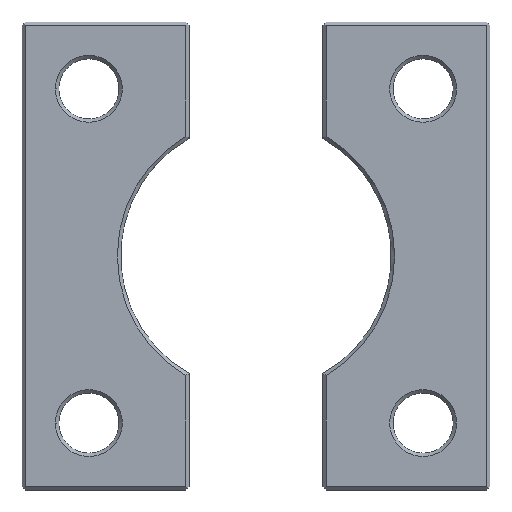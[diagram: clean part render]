
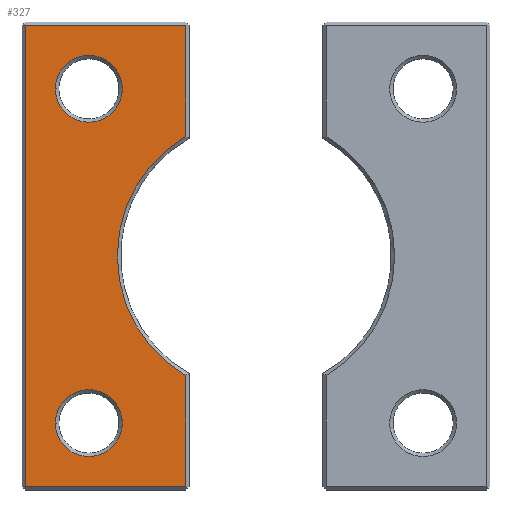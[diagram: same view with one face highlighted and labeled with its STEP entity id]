
A CAD part, top view. The second image highlights one B-rep face of the part: STEP entity #327.
In plain terms, the highlighted planar face has unit normal (0, 0, 1).
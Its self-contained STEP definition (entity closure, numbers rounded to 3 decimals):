
#174=CARTESIAN_POINT('Vertex',(-10.5,17.897,7.)) ;
#177=CARTESIAN_POINT('Axis2P3D Location',(0.,0.,7.)) ;
#181=CARTESIAN_POINT('Vertex',(-10.5,-17.897,7.)) ;
#206=CARTESIAN_POINT('Vertex',(-20.,-25.,7.)) ;
#222=CARTESIAN_POINT('Vertex',(-30.,-25.,7.)) ;
#225=CARTESIAN_POINT('Axis2P3D Location',(-25.,-25.,7.)) ;
#247=CARTESIAN_POINT('Axis2P3D Location',(-25.,-25.,7.)) ;
#259=CARTESIAN_POINT('Axis2P3D Location',(0.,0.,7.)) ;
#264=CARTESIAN_POINT('Line Origine',(-34.5,0.,7.)) ;
#268=CARTESIAN_POINT('Vertex',(-34.5,-34.5,7.)) ;
#270=CARTESIAN_POINT('Vertex',(-34.5,34.5,7.)) ;
#273=CARTESIAN_POINT('Line Origine',(-22.5,-34.5,7.)) ;
#277=CARTESIAN_POINT('Vertex',(-10.5,-34.5,7.)) ;
#280=CARTESIAN_POINT('Line Origine',(-10.5,-26.199,7.)) ;
#285=CARTESIAN_POINT('Line Origine',(-10.5,26.199,7.)) ;
#289=CARTESIAN_POINT('Vertex',(-10.5,34.5,7.)) ;
#292=CARTESIAN_POINT('Line Origine',(-22.5,34.5,7.)) ;
#305=CARTESIAN_POINT('Axis2P3D Location',(-25.,25.,7.)) ;
#309=CARTESIAN_POINT('Vertex',(-30.,25.,7.)) ;
#311=CARTESIAN_POINT('Vertex',(-20.,25.,7.)) ;
#314=CARTESIAN_POINT('Axis2P3D Location',(-25.,25.,7.)) ;
#178=DIRECTION('Axis2P3D Direction',(0.,0.,1.)) ;
#226=DIRECTION('Axis2P3D Direction',(0.,0.,1.)) ;
#248=DIRECTION('Axis2P3D Direction',(0.,0.,1.)) ;
#260=DIRECTION('Axis2P3D Direction',(0.,0.,1.)) ;
#261=DIRECTION('Axis2P3D XDirection',(1.,0.,0.)) ;
#265=DIRECTION('Vector Direction',(0.,-1.,0.)) ;
#274=DIRECTION('Vector Direction',(1.,0.,0.)) ;
#281=DIRECTION('Vector Direction',(0.,1.,0.)) ;
#286=DIRECTION('Vector Direction',(0.,1.,0.)) ;
#293=DIRECTION('Vector Direction',(-1.,0.,0.)) ;
#306=DIRECTION('Axis2P3D Direction',(0.,0.,1.)) ;
#315=DIRECTION('Axis2P3D Direction',(0.,0.,1.)) ;
#179=AXIS2_PLACEMENT_3D('Circle Axis2P3D',#177,#178,$) ;
#227=AXIS2_PLACEMENT_3D('Circle Axis2P3D',#225,#226,$) ;
#249=AXIS2_PLACEMENT_3D('Circle Axis2P3D',#247,#248,$) ;
#262=AXIS2_PLACEMENT_3D('Plane Axis2P3D',#259,#260,#261) ;
#307=AXIS2_PLACEMENT_3D('Circle Axis2P3D',#305,#306,$) ;
#316=AXIS2_PLACEMENT_3D('Circle Axis2P3D',#314,#315,$) ;
#298=ORIENTED_EDGE('',*,*,#272,.F.) ;
#299=ORIENTED_EDGE('',*,*,#279,.F.) ;
#300=ORIENTED_EDGE('',*,*,#284,.F.) ;
#301=ORIENTED_EDGE('',*,*,#183,.F.) ;
#302=ORIENTED_EDGE('',*,*,#291,.F.) ;
#303=ORIENTED_EDGE('',*,*,#296,.F.) ;
#320=ORIENTED_EDGE('',*,*,#313,.T.) ;
#321=ORIENTED_EDGE('',*,*,#318,.T.) ;
#324=ORIENTED_EDGE('',*,*,#251,.T.) ;
#325=ORIENTED_EDGE('',*,*,#229,.T.) ;
#322=FACE_BOUND('',#319,.T.) ;
#326=FACE_BOUND('',#323,.T.) ;
#266=VECTOR('Line Direction',#265,1.) ;
#275=VECTOR('Line Direction',#274,1.) ;
#282=VECTOR('Line Direction',#281,1.) ;
#287=VECTOR('Line Direction',#286,1.) ;
#294=VECTOR('Line Direction',#293,1.) ;
#327=ADVANCED_FACE('',(#304,#322,#326),#263,.T.) ;
#180=CIRCLE('generated circle',#179,20.75) ;
#228=CIRCLE('generated circle',#227,5.) ;
#250=CIRCLE('generated circle',#249,5.) ;
#308=CIRCLE('generated circle',#307,5.) ;
#317=CIRCLE('generated circle',#316,5.) ;
#183=EDGE_CURVE('',#175,#182,#180,.T.) ;
#229=EDGE_CURVE('',#207,#223,#228,.F.) ;
#251=EDGE_CURVE('',#223,#207,#250,.F.) ;
#272=EDGE_CURVE('',#269,#271,#267,.F.) ;
#279=EDGE_CURVE('',#278,#269,#276,.F.) ;
#284=EDGE_CURVE('',#182,#278,#283,.F.) ;
#291=EDGE_CURVE('',#290,#175,#288,.F.) ;
#296=EDGE_CURVE('',#271,#290,#295,.F.) ;
#313=EDGE_CURVE('',#310,#312,#308,.F.) ;
#318=EDGE_CURVE('',#312,#310,#317,.F.) ;
#297=EDGE_LOOP('',(#298,#299,#300,#301,#302,#303)) ;
#319=EDGE_LOOP('',(#320,#321)) ;
#323=EDGE_LOOP('',(#324,#325)) ;
#304=FACE_OUTER_BOUND('',#297,.T.) ;
#267=LINE('Line',#264,#266) ;
#276=LINE('Line',#273,#275) ;
#283=LINE('Line',#280,#282) ;
#288=LINE('Line',#285,#287) ;
#295=LINE('Line',#292,#294) ;
#263=PLANE('Plane',#262) ;
#175=VERTEX_POINT('',#174) ;
#182=VERTEX_POINT('',#181) ;
#207=VERTEX_POINT('',#206) ;
#223=VERTEX_POINT('',#222) ;
#269=VERTEX_POINT('',#268) ;
#271=VERTEX_POINT('',#270) ;
#278=VERTEX_POINT('',#277) ;
#290=VERTEX_POINT('',#289) ;
#310=VERTEX_POINT('',#309) ;
#312=VERTEX_POINT('',#311) ;
